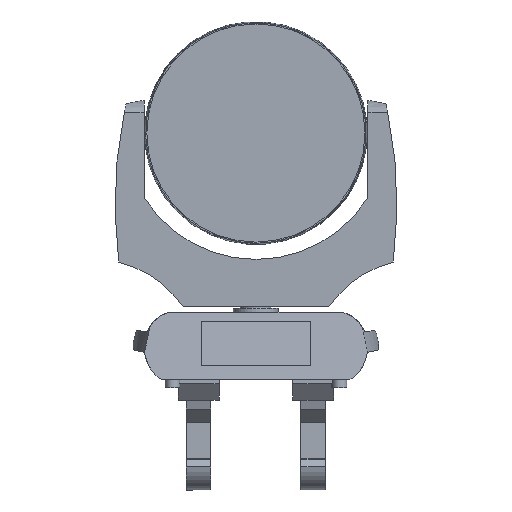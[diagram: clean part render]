
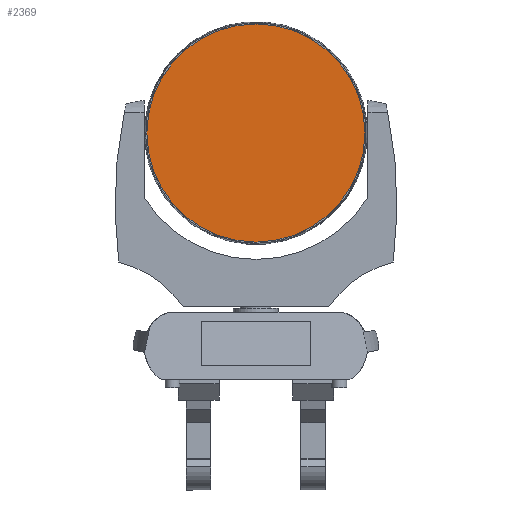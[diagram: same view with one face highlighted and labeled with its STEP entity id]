
A CAD part, left-side view. The second image highlights one B-rep face of the part: STEP entity #2369.
In plain terms, the highlighted planar face has unit normal (-1, 0, 0).
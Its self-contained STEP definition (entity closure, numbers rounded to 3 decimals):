
#160=CIRCLE('',#2617,133.405);
#972=ORIENTED_EDGE('',*,*,#1422,.F.);
#1422=EDGE_CURVE('',#1684,#1684,#160,.T.);
#1684=VERTEX_POINT('',#4488);
#1926=EDGE_LOOP('',(#972));
#2116=FACE_BOUND('',#1926,.T.);
#2241=PLANE('',#2618);
#2369=ADVANCED_FACE('',(#2116),#2241,.F.);
#2617=AXIS2_PLACEMENT_3D('',#4487,#3064,#3065);
#2618=AXIS2_PLACEMENT_3D('',#4489,#3066,#3067);
#3064=DIRECTION('',(1.,0.,0.));
#3065=DIRECTION('',(0.,-1.,0.));
#3066=DIRECTION('',(1.,0.,0.));
#3067=DIRECTION('',(0.,0.,-1.));
#4487=CARTESIAN_POINT('',(-59.1,0.,295.871));
#4488=CARTESIAN_POINT('',(-59.1,-133.405,295.871));
#4489=CARTESIAN_POINT('',(-59.1,0.,295.871));
